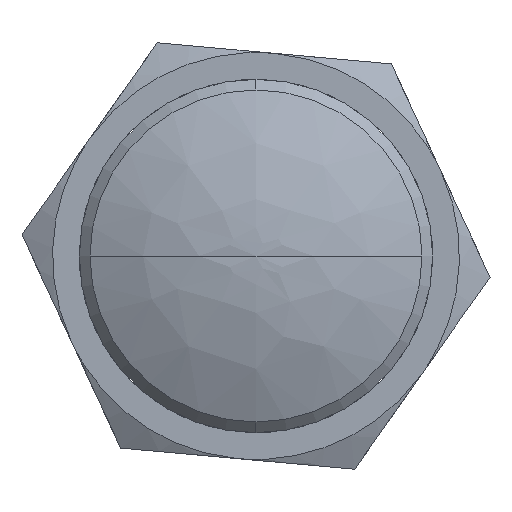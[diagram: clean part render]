
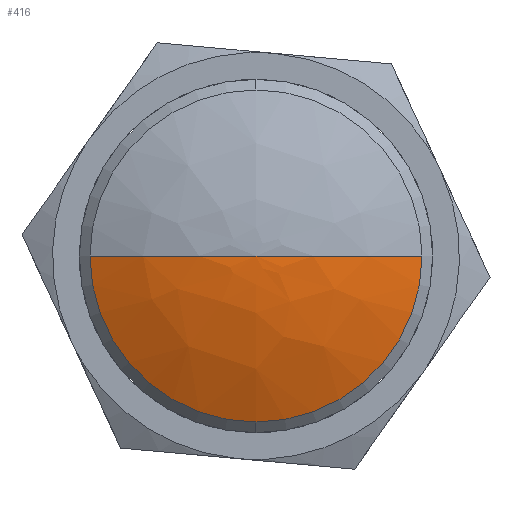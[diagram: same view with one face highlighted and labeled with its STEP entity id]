
A CAD part, left-side view. The second image highlights one B-rep face of the part: STEP entity #416.
In plain terms, the highlighted free-form (B-spline) face has degree [3, 3] with [4, 4] control points.
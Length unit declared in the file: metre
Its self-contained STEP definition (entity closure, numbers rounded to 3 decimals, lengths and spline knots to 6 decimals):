
#10 = ORIENTED_EDGE ( 'NONE', *, *, #1549, .F. ) ;
#12 = AXIS2_PLACEMENT_3D ( 'NONE', #904, #1968, #1061 ) ;
#81 = DIRECTION ( 'NONE',  ( 0., 0., 1. ) ) ;
#83 = CARTESIAN_POINT ( 'NONE',  ( 0.001228, 0.010658, 0. ) ) ;
#96 = CIRCLE ( 'NONE', #260, 0.0155 ) ;
#99 = CARTESIAN_POINT ( 'NONE',  ( 0.001228, 0.010658, -0.021317 ) ) ;
#151 = ORIENTED_EDGE ( 'NONE', *, *, #1677, .T. ) ;
#165 = CARTESIAN_POINT ( 'NONE',  ( 0.003619, 0.0155, -0.031 ) ) ;
#202 =( BOUNDED_SURFACE ( )  B_SPLINE_SURFACE ( 3, 3, ( 
 ( #467, #165, #1252, #318 ),
 ( #83, #99, #226, #237 ),
 ( #249, #255, #382, #392 ),
 ( #400, #529, #539, #686 ) ),
 .UNSPECIFIED., .F., .F., .F. ) 
 B_SPLINE_SURFACE_WITH_KNOTS ( ( 4, 4 ),
 ( 4, 4 ),
 ( 0., 1. ),
 ( 0., 1. ),
 .UNSPECIFIED. ) 
 GEOMETRIC_REPRESENTATION_ITEM ( )  RATIONAL_B_SPLINE_SURFACE ( (
 ( 1., 0.333, 0.333, 1.),
 ( 0.983, 0.328, 0.328, 0.983),
 ( 0.983, 0.328, 0.328, 0.983),
 ( 1., 0.333, 0.333, 1.) ) ) 
 REPRESENTATION_ITEM ( '' )  SURFACE ( )  );
#226 = CARTESIAN_POINT ( 'NONE',  ( 0.001228, -0.010658, -0.021317 ) ) ;
#237 = CARTESIAN_POINT ( 'NONE',  ( 0.001228, -0.010658, 0. ) ) ;
#249 = CARTESIAN_POINT ( 'NONE',  ( 0., 0.0054, 0. ) ) ;
#253 = CARTESIAN_POINT ( 'NONE',  ( 0.035, 0., 0. ) ) ;
#255 = CARTESIAN_POINT ( 'NONE',  ( 0., 0.0054, -0.0108 ) ) ;
#260 = AXIS2_PLACEMENT_3D ( 'NONE', #1912, #1002, #81 ) ;
#318 = CARTESIAN_POINT ( 'NONE',  ( 0.003619, -0.0155, 0. ) ) ;
#372 = VERTEX_POINT ( 'NONE', #1094 ) ;
#382 = CARTESIAN_POINT ( 'NONE',  ( 0., -0.0054, -0.0108 ) ) ;
#392 = CARTESIAN_POINT ( 'NONE',  ( 0., -0.0054, 0. ) ) ;
#398 = CARTESIAN_POINT ( 'NONE',  ( 0.003619, -0.0155, 0. ) ) ;
#400 = CARTESIAN_POINT ( 'NONE',  ( 0., 0., 0. ) ) ;
#407 = DIRECTION ( 'NONE',  ( 1., 0., 0. ) ) ;
#416 = ADVANCED_FACE ( 'NONE', ( #1247 ), #202, .F. ) ;
#467 = CARTESIAN_POINT ( 'NONE',  ( 0.003619, 0.0155, 0. ) ) ;
#529 = CARTESIAN_POINT ( 'NONE',  ( 0., 0., 0. ) ) ;
#539 = CARTESIAN_POINT ( 'NONE',  ( 0., 0., 0. ) ) ;
#592 = CIRCLE ( 'NONE', #1635, 0.035 ) ;
#678 = ORIENTED_EDGE ( 'NONE', *, *, #1504, .T. ) ;
#686 = CARTESIAN_POINT ( 'NONE',  ( 0., 0., 0. ) ) ;
#719 = CIRCLE ( 'NONE', #12, 0.0155 ) ;
#757 = AXIS2_PLACEMENT_3D ( 'NONE', #253, #1333, #407 ) ;
#826 = CARTESIAN_POINT ( 'NONE',  ( 0.035, 0., 0. ) ) ;
#904 = CARTESIAN_POINT ( 'NONE',  ( 0.003619, 0., 0. ) ) ;
#989 = DIRECTION ( 'NONE',  ( 1., 0., 0. ) ) ;
#1002 = DIRECTION ( 'NONE',  ( -1., 0., 0. ) ) ;
#1061 = DIRECTION ( 'NONE',  ( 0., 0., 1. ) ) ;
#1094 = CARTESIAN_POINT ( 'NONE',  ( 0.003619, 0., -0.0155 ) ) ;
#1116 = VERTEX_POINT ( 'NONE', #1285 ) ;
#1247 = FACE_OUTER_BOUND ( 'NONE', #1949, .T. ) ;
#1252 = CARTESIAN_POINT ( 'NONE',  ( 0.003619, -0.0155, -0.031 ) ) ;
#1265 = VERTEX_POINT ( 'NONE', #1756 ) ;
#1285 = CARTESIAN_POINT ( 'NONE',  ( 0., 0., 0. ) ) ;
#1333 = DIRECTION ( 'NONE',  ( 0., 0., 1. ) ) ;
#1394 = EDGE_CURVE ( 'NONE', #1529, #1116, #592, .T. ) ;
#1504 = EDGE_CURVE ( 'NONE', #372, #1529, #96, .T. ) ;
#1514 = ORIENTED_EDGE ( 'NONE', *, *, #1394, .T. ) ;
#1529 = VERTEX_POINT ( 'NONE', #398 ) ;
#1549 = EDGE_CURVE ( 'NONE', #1265, #1116, #1670, .T. ) ;
#1635 = AXIS2_PLACEMENT_3D ( 'NONE', #826, #1892, #989 ) ;
#1670 = CIRCLE ( 'NONE', #757, 0.035 ) ;
#1677 = EDGE_CURVE ( 'NONE', #1265, #372, #719, .T. ) ;
#1756 = CARTESIAN_POINT ( 'NONE',  ( 0.003619, 0.0155, 0. ) ) ;
#1892 = DIRECTION ( 'NONE',  ( 0., 0., -1. ) ) ;
#1912 = CARTESIAN_POINT ( 'NONE',  ( 0.003619, 0., 0. ) ) ;
#1949 = EDGE_LOOP ( 'NONE', ( #678, #1514, #10, #151 ) ) ;
#1968 = DIRECTION ( 'NONE',  ( -1., 0., 0. ) ) ;
